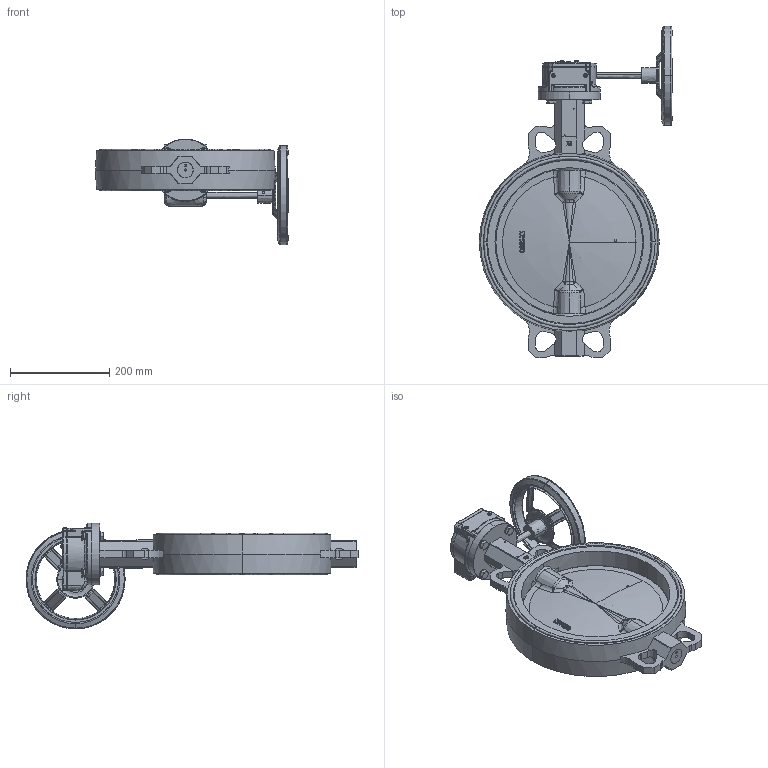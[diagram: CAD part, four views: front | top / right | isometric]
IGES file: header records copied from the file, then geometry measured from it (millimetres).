
Start section: SolidWorks IGES file using NURBS representation for surfaces
Global section: file name: H:\BE BIBLIOTHEQUE 3D\Projet_Biblio3D_2016\FSK\VPI\VPI-02\VPI-08 DN300.Igs; native system: SolidWorks 2014; preprocessor: SolidWorks 2014; author: a.cartier; date: 160929.160201; units: millimetre
Bounding box: 390.1 x 670 x 213.7 mm (x, y, z)
Volume: 5142629.7 mm3; surface area: 848536.4 mm2
Topology: 36 solids, 36 shells, 3260 faces, 8436 edges, 5203 vertices
Faces by surface type: bspline 3260
